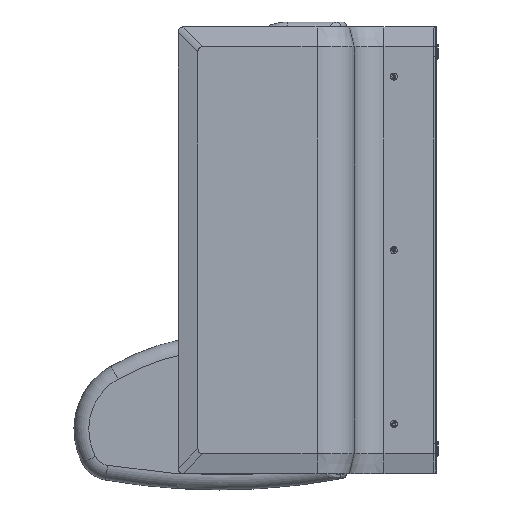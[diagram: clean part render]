
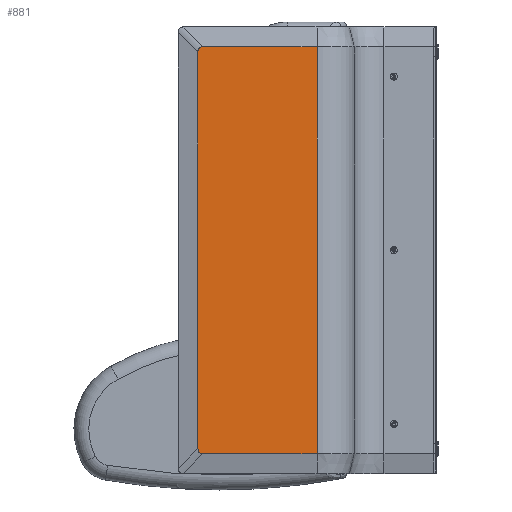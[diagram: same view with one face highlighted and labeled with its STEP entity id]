
A CAD part, left-side view. The second image highlights one B-rep face of the part: STEP entity #881.
In plain terms, the highlighted planar face has unit normal (-1, 0, 0).
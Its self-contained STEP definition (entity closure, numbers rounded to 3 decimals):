
#63 = VECTOR ( 'NONE', #10068, 1000. ) ;
#203 = ORIENTED_EDGE ( 'NONE', *, *, #1109, .T. ) ;
#318 = CARTESIAN_POINT ( 'NONE',  ( -162.5, 475., -399.935 ) ) ;
#650 = EDGE_CURVE ( 'NONE', #3147, #5943, #5695, .T. ) ;
#881 = ADVANCED_FACE ( 'NONE', ( #4643 ), #4590, .F. ) ;
#1062 = VERTEX_POINT ( 'NONE', #2020 ) ;
#1109 = EDGE_CURVE ( 'NONE', #1062, #3147, #3697, .T. ) ;
#1780 = EDGE_CURVE ( 'NONE', #4768, #8064, #10713, .T. ) ;
#1856 = EDGE_CURVE ( 'NONE', #11653, #5943, #3288, .T. ) ;
#1927 = CARTESIAN_POINT ( 'NONE',  ( -162.5, 475., -410. ) ) ;
#2020 = CARTESIAN_POINT ( 'NONE',  ( -162.5, 475., -399.935 ) ) ;
#2041 = VECTOR ( 'NONE', #2097, 1000. ) ;
#2093 = CARTESIAN_POINT ( 'NONE',  ( -162.5, 235., 410. ) ) ;
#2097 = DIRECTION ( 'NONE',  ( 0., -1., 0. ) ) ;
#2108 = ORIENTED_EDGE ( 'NONE', *, *, #8347, .T. ) ;
#2683 = LINE ( 'NONE', #6393, #63 ) ;
#2906 = ORIENTED_EDGE ( 'NONE', *, *, #4817, .T. ) ;
#2935 = CARTESIAN_POINT ( 'NONE',  ( -162.5, 475., 399.935 ) ) ;
#3064 = CARTESIAN_POINT ( 'NONE',  ( -162.5, 464.935, -410. ) ) ;
#3068 = ORIENTED_EDGE ( 'NONE', *, *, #1856, .F. ) ;
#3147 = VERTEX_POINT ( 'NONE', #3064 ) ;
#3288 = LINE ( 'NONE', #7895, #8550 ) ;
#3697 =( BOUNDED_CURVE ( )  B_SPLINE_CURVE ( 3, ( #318, #7542, #5864, #11234 ),
 .UNSPECIFIED., .F., .T. ) 
 B_SPLINE_CURVE_WITH_KNOTS ( ( 4, 4 ),
 ( 2.969, 3.314 ),
 .UNSPECIFIED. ) 
 CURVE ( )  GEOMETRIC_REPRESENTATION_ITEM ( )  RATIONAL_B_SPLINE_CURVE ( ( 1., 0.99, 0.99, 1. ) ) 
 REPRESENTATION_ITEM ( '' )  );
#3791 = CARTESIAN_POINT ( 'NONE',  ( -162.5, 475., 406.611 ) ) ;
#3904 = CARTESIAN_POINT ( 'NONE',  ( -162.5, 471.611, 410. ) ) ;
#4146 = DIRECTION ( 'NONE',  ( 0., 0., -1. ) ) ;
#4590 = PLANE ( 'NONE',  #6718 ) ;
#4643 = FACE_OUTER_BOUND ( 'NONE', #5992, .T. ) ;
#4768 = VERTEX_POINT ( 'NONE', #9251 ) ;
#4785 = CARTESIAN_POINT ( 'NONE',  ( -162.5, 515., -410. ) ) ;
#4817 = EDGE_CURVE ( 'NONE', #8064, #1062, #7337, .T. ) ;
#5296 = CARTESIAN_POINT ( 'NONE',  ( -162.5, 475., 399.935 ) ) ;
#5438 = DIRECTION ( 'NONE',  ( 0., 0., -1. ) ) ;
#5531 = DIRECTION ( 'NONE',  ( 0., 0., -1. ) ) ;
#5695 = LINE ( 'NONE', #4785, #2041 ) ;
#5864 = CARTESIAN_POINT ( 'NONE',  ( -162.5, 471.611, -410. ) ) ;
#5943 = VERTEX_POINT ( 'NONE', #7130 ) ;
#5973 = ORIENTED_EDGE ( 'NONE', *, *, #650, .T. ) ;
#5992 = EDGE_LOOP ( 'NONE', ( #2108, #7164, #2906, #203, #5973, #3068 ) ) ;
#6393 = CARTESIAN_POINT ( 'NONE',  ( -162.5, 515., 410. ) ) ;
#6718 = AXIS2_PLACEMENT_3D ( 'NONE', #11958, #11049, #5438 ) ;
#7130 = CARTESIAN_POINT ( 'NONE',  ( -162.5, 235., -410. ) ) ;
#7164 = ORIENTED_EDGE ( 'NONE', *, *, #1780, .T. ) ;
#7337 = LINE ( 'NONE', #1927, #10650 ) ;
#7542 = CARTESIAN_POINT ( 'NONE',  ( -162.5, 475., -406.611 ) ) ;
#7895 = CARTESIAN_POINT ( 'NONE',  ( -162.5, 235., 450. ) ) ;
#8064 = VERTEX_POINT ( 'NONE', #5296 ) ;
#8347 = EDGE_CURVE ( 'NONE', #11653, #4768, #2683, .T. ) ;
#8550 = VECTOR ( 'NONE', #4146, 1000. ) ;
#9251 = CARTESIAN_POINT ( 'NONE',  ( -162.5, 464.935, 410. ) ) ;
#9514 = CARTESIAN_POINT ( 'NONE',  ( -162.5, 464.935, 410. ) ) ;
#10068 = DIRECTION ( 'NONE',  ( 0., 1., 0. ) ) ;
#10650 = VECTOR ( 'NONE', #5531, 1000. ) ;
#10713 =( BOUNDED_CURVE ( )  B_SPLINE_CURVE ( 3, ( #9514, #3904, #3791, #2935 ),
 .UNSPECIFIED., .F., .T. ) 
 B_SPLINE_CURVE_WITH_KNOTS ( ( 4, 4 ),
 ( 2.969, 3.314 ),
 .UNSPECIFIED. ) 
 CURVE ( )  GEOMETRIC_REPRESENTATION_ITEM ( )  RATIONAL_B_SPLINE_CURVE ( ( 1., 0.99, 0.99, 1. ) ) 
 REPRESENTATION_ITEM ( '' )  );
#11049 = DIRECTION ( 'NONE',  ( 1., 0., 0. ) ) ;
#11234 = CARTESIAN_POINT ( 'NONE',  ( -162.5, 464.935, -410. ) ) ;
#11653 = VERTEX_POINT ( 'NONE', #2093 ) ;
#11958 = CARTESIAN_POINT ( 'NONE',  ( -162.5, 515., -450. ) ) ;
